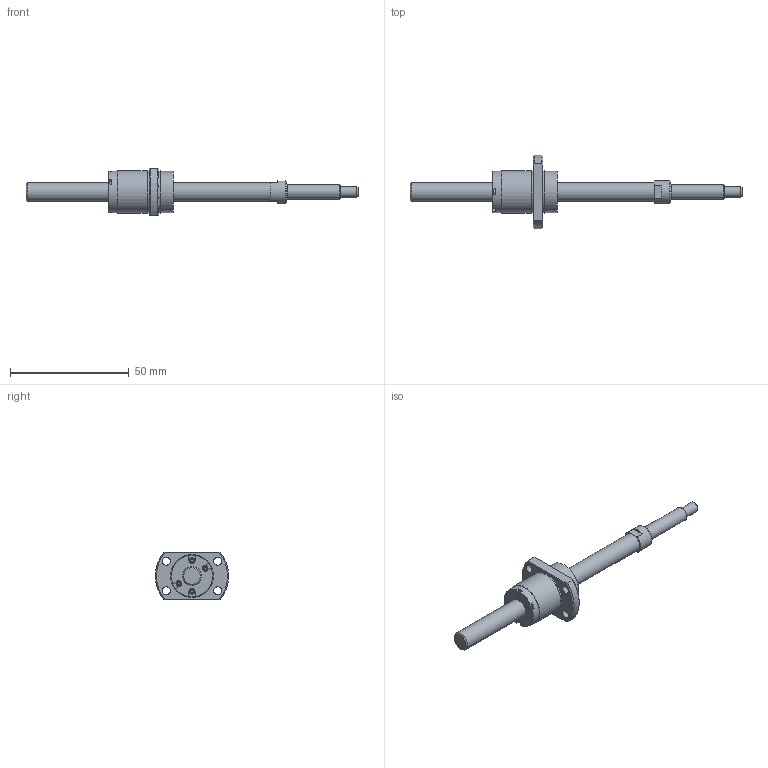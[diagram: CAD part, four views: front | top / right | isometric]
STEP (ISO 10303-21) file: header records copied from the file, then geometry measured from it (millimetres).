
FILE_DESCRIPTION( ( 'STEP AP214' ), '1' );
FILE_NAME( 'p:/temp/worker_8/2188_2204/app_90_12015063014470191119239260eae72_00_00_00_000/STEP/SG0812-097R140C5A1X_35__2_14.stp', ' ', ( ' ' ), ( ' ' ), 'PSStep 15.0.47', 'PARTsolutions', ' ' );
FILE_SCHEMA( ( 'AUTOMOTIVE_DESIGN { 1 0 10303 214 1 1 1 1 }' ) );
Length unit declared in the file: millimetre
Products named in the file (3): SG0812-097R140C5A1X(35); _SG0812-97R140C5A_shaft; _SG0812 C5_nut
Assembly tree (2 placements, depth 2):
  SG0812-097R140C5A1X(35)
    _SG0812-97R140C5A_shaft
    _SG0812 C5_nut
Bounding box: 140 x 30.91 x 20 mm (x, y, z)
Volume: 12880.7 mm3; surface area: 6984.5 mm2
Topology: 2 solids, 2 shells, 100 faces, 231 edges, 150 vertices
Faces by surface type: plane 63, cylinder 24, cone 12, torus 1
Full cylindrical faces by diameter (mm): 2.25 x4, 3.4 x4, 4.5 x1, 6 x1, 8 x2, 9.5 x1, 17.5 x3, 18 x2
Entity records: 3560 total; most frequent: CARTESIAN_POINT 477, DIRECTION 472, ORIENTED_EDGE 404, EDGE_CURVE 202, AXIS2_PLACEMENT_3D 175, EDGE_LOOP 152, VERTEX_POINT 148, LINE 122
